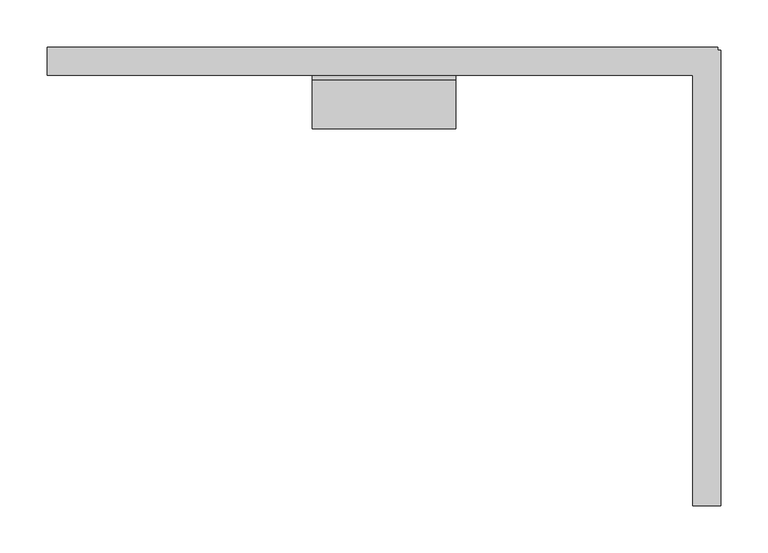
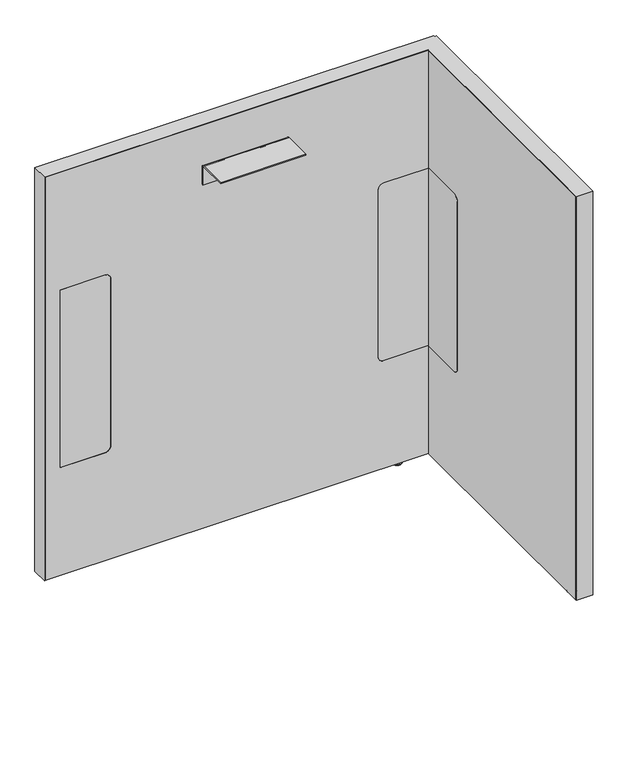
"""IFC4 building model written with IfcOpenShell, lengths in millimetres: furniture geometry, Steelcase - Answer Solution - Boundary Screen - L Return - Single Sided : 30H x 27W."""

from ifc_helpers import new_model, si_unit, point, frame, frame_2d, origin, place, context, project, spatial, polyline, circle_curve, ellipse_curve, trimmed, segment, composite_curve, outline, extrude, faceted_brep, source, transform, mapped, element, save
from ifc_brep_helpers import plane_surface, cylinder_surface, revolved_surface, advanced_brep


def furniture_b5be8e6a(model_context):
    return source(origin(), model_context, "Body", "SolidModel", [
        extrude(outline(composite_curve([segment(polyline([(-109.3501471, 549.6162029), (-29.0550397, 549.6162029), (-29.0550397, 213.7762137), (-109.3501471, 213.7762137)]), True, "CONTINUOUS"), segment(trimmed(circle_curve(frame_2d((-109.3501471, 223.9362137)), 10.16), [point((-109.3501471, 213.7762137))], [point((-119.5101471, 223.9362137))], False, "CARTESIAN"), True, "CONTINUOUS"), segment(polyline([(-119.5101471, 223.9362137), (-119.5101471, 539.4562029)]), True, "CONTINUOUS"), segment(trimmed(circle_curve(frame_2d((-109.3501471, 539.4562029)), 10.16), [point((-119.5101471, 539.4562029))], [point((-109.3501471, 549.6162029))], False, "CARTESIAN"), True, "CONTINUOUS")], self_intersect=False)), frame((915.6191891, 0.0, 0.0), z_axis=(1.0, 0.0, 0.0), x_axis=(0.0, 1.0, 0.0)), (0.0, 0.0, 1.0), 0.6401544),
        advanced_brep(
        [(930.4672074, -448.0136072, 0.0), (937.4216144, -448.0136072, 0.0), (923.5128003, -448.0136072, 0.0), (938.8762685, -448.0136072, 1.2700001), (922.0581463, -448.0136072, 1.2700001), (938.8762685, -448.0136072, 2.9673238), (922.0581463, -448.0136072, 2.9673238), (939.8427877, -448.0136072, 2.9673238), (921.091627, -448.0136072, 2.9673238), (939.8427877, -448.0136072, 9.9059849), (921.091627, -448.0136072, 9.9059849), (930.4672074, -448.0136072, 9.9059849)],
        [
            (0, 1),
            (1, 2, circle_curve(frame((930.4672074, -448.0136072, 0.0), z_axis=(0.0, 0.0, -1.0), x_axis=(1.0, 0.0, 0.0)), 6.9544071)),
            (2, 0),
            (2, 1, circle_curve(frame((930.4672074, -448.0136072, 0.0), z_axis=(0.0, 0.0, -1.0), x_axis=(1.0, 0.0, 0.0)), 6.9544071)),
            (1, 3, circle_curve(frame((937.5945484, -448.0136072, 1.2700001), z_axis=(0.0, -1.0, 0.0), x_axis=(0.0, 0.0, 1.0)), 1.2817201)),
            (3, 4, circle_curve(frame((930.4672074, -448.0136072, 1.2700001), z_axis=(0.0, 0.0, -1.0), x_axis=(1.0, 0.0, 0.0)), 8.4090611)),
            (4, 2, circle_curve(frame((923.3398663, -448.0136072, 1.2700001), z_axis=(0.0, -1.0, 0.0), x_axis=(0.0, 0.0, 1.0)), 1.2817201)),
            (4, 3, circle_curve(frame((930.4672074, -448.0136072, 1.2700001), z_axis=(0.0, 0.0, -1.0), x_axis=(1.0, 0.0, 0.0)), 8.4090611)),
            (3, 5),
            (5, 6, circle_curve(frame((930.4672074, -448.0136072, 2.9673238), z_axis=(0.0, 0.0, -1.0), x_axis=(1.0, 0.0, 0.0)), 8.4090611)),
            (6, 4),
            (6, 5, circle_curve(frame((930.4672074, -448.0136072, 2.9673238), z_axis=(0.0, 0.0, -1.0), x_axis=(1.0, 0.0, 0.0)), 8.4090611)),
            (5, 7),
            (7, 8, circle_curve(frame((930.4672074, -448.0136072, 2.9673238), z_axis=(0.0, 0.0, -1.0), x_axis=(1.0, 0.0, 0.0)), 9.3755804)),
            (8, 6),
            (8, 7, circle_curve(frame((930.4672074, -448.0136072, 2.9673238), z_axis=(0.0, 0.0, -1.0), x_axis=(1.0, 0.0, 0.0)), 9.3755804)),
            (7, 9),
            (9, 10, circle_curve(frame((930.4672074, -448.0136072, 9.9059849), z_axis=(0.0, 0.0, -1.0), x_axis=(1.0, 0.0, 0.0)), 9.3755804)),
            (10, 8),
            (10, 9, circle_curve(frame((930.4672074, -448.0136072, 9.9059849), z_axis=(0.0, 0.0, -1.0), x_axis=(1.0, 0.0, 0.0)), 9.3755804)),
            (9, 11),
            (11, 10),
        ],
        [
            plane_surface(frame((930.4672074, -448.0136072, 0.0), z_axis=(0.0, 0.0, -1.0), x_axis=(1.0, 0.0, 0.0))),
            revolved_surface(trimmed(ellipse_curve(frame((937.5945484, -448.0136072, 1.2700001), z_axis=(0.0, 1.0, 0.0), x_axis=(0.0, 0.0, 1.0)), 1.2817201, 1.2817201), [point((938.8762685, -448.0136072, 1.2700001))], [point((937.4216144, -448.0136072, 0.0))], True, "CARTESIAN"), (930.4672074, -448.0136072, 9.9059849), (0.0, 0.0, -1.0)),
            cylinder_surface(frame((930.4672074, -448.0136072, 9.9059849), z_axis=(0.0, 0.0, -1.0), x_axis=(1.0, 0.0, 0.0)), 8.4090611),
            plane_surface(frame((930.4672074, -448.0136072, 2.9673238), z_axis=(0.0, 0.0, -1.0), x_axis=(1.0, 0.0, 0.0))),
            cylinder_surface(frame((930.4672074, -448.0136072, 9.9059849), z_axis=(0.0, 0.0, -1.0), x_axis=(1.0, 0.0, 0.0)), 9.3755804),
            plane_surface(frame((930.4672074, -448.0136072, 9.9059849), z_axis=(0.0, 0.0, 1.0), x_axis=(1.0, 0.0, 0.0))),
        ],
        [
            (0, [[1, 2, 3]]),
            (0, [[-3, 4, -1]]),
            (1, [[-2, 5, 6, 7]]),
            (1, [[-4, -7, 8, -5]]),
            (2, [[-6, 9, 10, 11]]),
            (2, [[-8, -11, 12, -9]]),
            (3, [[-10, 13, 14, 15]]),
            (3, [[-12, -15, 16, -13]]),
            (4, [[-14, 17, 18, 19]]),
            (4, [[-16, -19, 20, -17]]),
            (5, [[-18, 21, 22]]),
            (5, [[-20, -22, -21]]),
        ],
    ),
        faceted_brep([(942.0531179, 0.0, 772.922), (942.0531179, 0.0, 9.9059849), (941.0621491, 0.0, 9.9059849), (941.0621491, 0.0, 771.942118), (230.8097779, 0.0, 771.942118), (230.8097779, 0.0, 9.9059849), (229.8191891, 0.0, 9.9059849), (229.8191891, 0.0, 772.922), (229.8191891, -29.6898332, 772.922), (229.8191891, -29.6898332, 9.9059849), (230.8097779, -29.6898332, 9.9059849), (230.8097779, -29.6898332, 771.942118), (915.6191891, -29.6898332, 771.942118), (915.6191891, -29.6898332, 772.922), (941.0621491, -29.6898332, 771.942118), (941.0621491, -29.6898332, 9.9059849), (942.0531179, -29.6898332, 9.9059849), (942.0531179, -29.6898332, 771.942118), (942.0531179, -3.2625916, 772.922), (942.0531179, -3.2625916, 9.9059849), (942.0531179, -4.252647, 9.9059849), (942.0531179, -4.252647, 771.942118), (945.3152256, -3.2625916, 9.9059849), (945.3152256, -4.252647, 9.9059849), (941.0621491, -4.252647, 9.9059849), (915.6191891, -4.252647, 9.9059849), (915.6191891, -3.2625916, 9.9059849), (941.0621491, -3.2625916, 9.9059849), (915.6191891, -486.8898332, 772.922), (945.3152256, -486.8898332, 772.922), (945.3152256, -3.2625916, 772.922), (941.0621491, -3.2625916, 771.942118), (941.0621491, -4.252647, 771.942118), (915.6191891, -3.2625916, 771.942118), (915.6191891, -4.252647, 771.942118), (945.3152256, -4.252647, 771.942118), (945.3152256, -485.899196, 771.942118), (915.6191891, -485.899196, 771.942118), (915.6191891, -485.899196, 9.9059849), (915.6191891, -486.8898332, 9.9059849), (945.3152256, -486.8898332, 9.9059849), (945.3152256, -485.899196, 9.9059849)], [[[0, 1, 2, 3, 4, 5, 6, 7]], [[8, 9, 10, 11, 12, 13]], [[14, 15, 16, 17]], [[1, 0, 18, 19]], [[17, 16, 20, 21]], [[2, 1, 19, 22, 23, 20, 16, 15, 24, 25, 26, 27]], [[7, 6, 9, 8]], [[0, 7, 8, 13, 28, 29, 30, 18]], [[3, 2, 27, 31]], [[15, 14, 32, 24]], [[4, 3, 31, 33, 34, 32, 14, 17, 21, 35, 36, 37, 12, 11]], [[5, 4, 11, 10]], [[6, 5, 10, 9]], [[26, 25, 34, 33]], [[37, 38, 39, 28, 13, 12]], [[29, 40, 41, 36, 35, 23, 22, 30]], [[27, 26, 33, 31]], [[30, 22, 19, 18]], [[34, 25, 24, 32]], [[23, 35, 21, 20]], [[38, 37, 36, 41]], [[39, 38, 41, 40]], [[28, 39, 40, 29]]]),
        extrude(outline(composite_curve([segment(polyline([(-86.8398151, 696.4680019), (-86.8398151, 698.5), (-34.9450855, 698.5)]), True, "CONTINUOUS"), segment(trimmed(circle_curve(frame_2d((-34.9450855, 693.2447477)), 5.2552523), [point((-34.9450855, 698.5))], [point((-29.6898332, 693.2447477))], False, "CARTESIAN"), True, "CONTINUOUS"), segment(polyline([(-29.6898332, 693.2447477), (-29.6898332, 660.4), (-31.7218162, 660.4), (-31.7218162, 693.0058743)]), True, "CONTINUOUS"), segment(trimmed(circle_curve(frame_2d((-35.1839438, 693.0058743)), 3.4621276), [point((-31.7218162, 693.0058743))], [point((-35.1839438, 696.4680019))], True, "CARTESIAN"), True, "CONTINUOUS"), segment(polyline([(-35.1839438, 696.4680019), (-86.8398151, 696.4680019)]), True, "CONTINUOUS")], self_intersect=False)), frame((511.3685899, 0.0, 0.0), z_axis=(1.0, 0.0, 0.0), x_axis=(0.0, 1.0, 0.0)), (0.0, 0.0, 1.0), 152.4000969),
        advanced_brep(
        [(868.1246853, -23.7588726, 9.9059849), (868.1246853, -5.9309607, 9.9059849), (868.1246853, -14.8449166, 9.9059849), (868.1246853, -23.7588726, 2.9673238), (868.1246853, -5.9309607, 2.9673238), (868.1246853, -22.7915354, 2.9673238), (868.1246853, -6.8982978, 2.9673238), (868.1246853, -22.7915354, 1.6569081), (868.1246853, -6.8982978, 1.6569081), (868.1246853, -21.1346274, 0.0), (868.1246853, -8.5552059, 0.0), (868.1246853, -14.8449166, 0.0)],
        [
            (0, 1, circle_curve(frame((868.1246853, -14.8449166, 9.9059849), z_axis=(0.0, 0.0, 1.0), x_axis=(0.0, 1.0, 0.0)), 8.913956)),
            (1, 2),
            (2, 0),
            (1, 0, circle_curve(frame((868.1246853, -14.8449166, 9.9059849), z_axis=(0.0, 0.0, 1.0), x_axis=(0.0, 1.0, 0.0)), 8.913956)),
            (3, 4, circle_curve(frame((868.1246853, -14.8449166, 2.9673238), z_axis=(0.0, 0.0, 1.0), x_axis=(0.0, 1.0, 0.0)), 8.913956)),
            (4, 1),
            (0, 3),
            (4, 3, circle_curve(frame((868.1246853, -14.8449166, 2.9673238), z_axis=(0.0, 0.0, 1.0), x_axis=(0.0, 1.0, 0.0)), 8.913956)),
            (5, 6, circle_curve(frame((868.1246853, -14.8449166, 2.9673238), z_axis=(0.0, 0.0, 1.0), x_axis=(0.0, 1.0, 0.0)), 7.9466188)),
            (6, 4),
            (3, 5),
            (6, 5, circle_curve(frame((868.1246853, -14.8449166, 2.9673238), z_axis=(0.0, 0.0, 1.0), x_axis=(0.0, 1.0, 0.0)), 7.9466188)),
            (7, 8, circle_curve(frame((868.1246853, -14.8449166, 1.6569081), z_axis=(0.0, 0.0, 1.0), x_axis=(0.0, 1.0, 0.0)), 7.9466188)),
            (8, 6),
            (5, 7),
            (8, 7, circle_curve(frame((868.1246853, -14.8449166, 1.6569081), z_axis=(0.0, 0.0, 1.0), x_axis=(0.0, 1.0, 0.0)), 7.9466188)),
            (9, 10, circle_curve(frame((868.1246853, -14.8449166, 0.0), z_axis=(0.0, 0.0, 1.0), x_axis=(0.0, 1.0, 0.0)), 6.2897107)),
            (10, 8, circle_curve(frame((868.1246853, -8.5552059, 1.6569081), z_axis=(1.0, 0.0, 0.0), x_axis=(0.0, 1.0, 0.0)), 1.6569081)),
            (7, 9, circle_curve(frame((868.1246853, -21.1346274, 1.6569081), z_axis=(1.0, 0.0, 0.0), x_axis=(0.0, -1.0, 0.0)), 1.6569081)),
            (10, 9, circle_curve(frame((868.1246853, -14.8449166, 0.0), z_axis=(0.0, 0.0, 1.0), x_axis=(0.0, 1.0, 0.0)), 6.2897107)),
            (11, 10),
            (9, 11),
        ],
        [
            plane_surface(frame((868.1246853, -14.8449166, 9.9059849), z_axis=(0.0, 0.0, 1.0), x_axis=(0.0, 1.0, 0.0))),
            cylinder_surface(frame((868.1246853, -14.8449166, 9.9059849), z_axis=(0.0, 0.0, -1.0), x_axis=(0.0, 1.0, 0.0)), 8.913956),
            plane_surface(frame((868.1246853, -14.8449166, 2.9673238), z_axis=(0.0, 0.0, -1.0), x_axis=(0.0, 1.0, 0.0))),
            cylinder_surface(frame((868.1246853, -14.8449166, 9.9059849), z_axis=(0.0, 0.0, -1.0), x_axis=(0.0, 1.0, 0.0)), 7.9466188),
            revolved_surface(trimmed(ellipse_curve(frame((868.1246853, -8.5552059, 1.6569081), z_axis=(-1.0, 0.0, 0.0), x_axis=(0.0, 1.0, 0.0)), 1.6569081, 1.6569081), [point((868.1246853, -6.8982978, 1.6569081))], [point((868.1246853, -8.5552059, 0.0))], True, "CARTESIAN"), (868.1246853, -14.8449166, 9.9059849), (0.0, 0.0, -1.0)),
            plane_surface(frame((868.1246853, -14.8449166, 0.0), z_axis=(0.0, 0.0, -1.0), x_axis=(0.0, 1.0, 0.0))),
        ],
        [
            (0, [[1, 2, 3]]),
            (0, [[4, -3, -2]]),
            (1, [[5, 6, -1, 7]]),
            (1, [[8, -7, -4, -6]]),
            (2, [[9, 10, -5, 11]]),
            (2, [[12, -11, -8, -10]]),
            (3, [[13, 14, -9, 15]]),
            (3, [[16, -15, -12, -14]]),
            (4, [[17, 18, -13, 19]]),
            (4, [[20, -19, -16, -18]]),
            (5, [[21, -17, 22]]),
            (5, [[-22, -20, -21]]),
        ],
    ),
        advanced_brep(
        [(230.8097779, 0.0, 771.942118), (941.0621491, 0.0, 771.942118), (941.0621491, 0.0, 9.9059849), (230.8097779, 0.0, 9.9059849), (347.9483813, -29.0550397, 539.4562029), (337.7883813, -29.0550397, 549.6162029), (258.1344836, -29.0550397, 549.6162029), (258.1344836, -29.0550397, 213.7762137), (337.7883813, -29.0550397, 213.7762137), (347.9483813, -29.0550397, 223.9362137), (916.2593435, -29.0550397, 213.7762137), (916.2593435, -29.0550397, 549.6162029), (835.7109268, -29.0550397, 549.6162029), (825.5509268, -29.0550397, 539.4562029), (825.5509268, -29.0550397, 223.9362137), (835.7109268, -29.0550397, 213.7762137), (230.8097779, -29.6898332, 771.942118), (230.8097779, -29.6898332, 9.9059849), (915.6191891, -29.6898332, 9.9059849), (915.6191891, -29.6898332, 213.7762137), (835.7109268, -29.6898332, 213.7762137), (825.5509268, -29.6898332, 223.9362137), (825.5509268, -29.6898332, 539.4562029), (835.7109268, -29.6898332, 549.6162029), (915.6191891, -29.6898332, 549.6162029), (915.6191891, -29.6898332, 771.942118), (337.7883813, -29.6898332, 549.6162029), (347.9483813, -29.6898332, 539.4562029), (347.9483813, -29.6898332, 223.9362137), (337.7883813, -29.6898332, 213.7762137), (258.1344836, -29.6898332, 213.7762137), (258.1344836, -29.6898332, 549.6162029), (941.0621491, -4.252647, 9.9059849), (945.3152256, -4.252647, 9.9059849), (945.3152256, -485.899196, 9.9059849), (915.6191891, -485.899196, 9.9059849), (941.0621491, -4.252647, 771.942118), (915.6191891, -485.899196, 771.942118), (945.3152256, -485.899196, 771.942118), (945.3152256, -4.252647, 771.942118), (916.2593435, -109.3501471, 549.6162029), (915.6191891, -109.3501471, 549.6162029), (916.2593435, -109.3501471, 213.7762137), (916.2593435, -119.5101471, 223.9362137), (916.2593435, -119.5101471, 539.4562029), (915.6191891, -109.3501471, 213.7762137), (915.6191891, -119.5101471, 539.4562029), (915.6191891, -119.5101471, 223.9362137)],
        [
            (0, 1),
            (1, 2),
            (2, 3),
            (3, 0),
            (4, 5, circle_curve(frame((337.7883813, -29.0550397, 539.4562029), z_axis=(0.0, -1.0, 0.0), x_axis=(0.0, 0.0, 1.0)), 10.16)),
            (5, 6),
            (6, 7),
            (7, 8),
            (8, 9, circle_curve(frame((337.7883813, -29.0550397, 223.9362137), z_axis=(0.0, -1.0, 0.0), x_axis=(0.0, 0.0, 1.0)), 10.16)),
            (9, 4),
            (10, 11),
            (11, 12),
            (12, 13, circle_curve(frame((835.7109268, -29.0550397, 539.4562029), z_axis=(0.0, -1.0, 0.0), x_axis=(0.0, 0.0, 1.0)), 10.16)),
            (13, 14),
            (14, 15, circle_curve(frame((835.7109268, -29.0550397, 223.9362137), z_axis=(0.0, -1.0, 0.0), x_axis=(0.0, 0.0, 1.0)), 10.16)),
            (15, 10),
            (16, 17),
            (17, 18),
            (18, 19),
            (19, 20),
            (20, 21, circle_curve(frame((835.7109268, -29.6898332, 223.9362137), z_axis=(0.0, 1.0, 0.0), x_axis=(0.0, 0.0, 1.0)), 10.16)),
            (21, 22),
            (22, 23, circle_curve(frame((835.7109268, -29.6898332, 539.4562029), z_axis=(0.0, 1.0, 0.0), x_axis=(0.0, 0.0, 1.0)), 10.16)),
            (23, 24),
            (24, 25),
            (25, 16),
            (26, 27, circle_curve(frame((337.7883813, -29.6898332, 539.4562029), z_axis=(0.0, 1.0, 0.0), x_axis=(0.0, 0.0, 1.0)), 10.16)),
            (27, 28),
            (28, 29, circle_curve(frame((337.7883813, -29.6898332, 223.9362137), z_axis=(0.0, 1.0, 0.0), x_axis=(0.0, 0.0, 1.0)), 10.16)),
            (29, 30),
            (30, 31),
            (31, 26),
            (16, 0),
            (3, 17),
            (2, 32),
            (32, 33),
            (33, 34),
            (34, 35),
            (35, 18),
            (1, 36),
            (36, 32),
            (25, 37),
            (37, 38),
            (38, 39),
            (39, 36),
            (26, 5),
            (4, 27),
            (9, 28),
            (8, 29),
            (7, 30),
            (6, 31),
            (11, 40),
            (40, 41),
            (41, 24),
            (23, 12),
            (42, 43, circle_curve(frame((916.2593435, -109.3501471, 223.9362137), z_axis=(-1.0, 0.0, 0.0), x_axis=(0.0, 1.0, 0.0)), 10.16)),
            (43, 44),
            (44, 40, circle_curve(frame((916.2593435, -109.3501471, 539.4562029), z_axis=(-1.0, 0.0, 0.0), x_axis=(0.0, 1.0, 0.0)), 10.16)),
            (10, 42),
            (15, 20),
            (19, 45),
            (45, 42),
            (14, 21),
            (13, 22),
            (35, 37),
            (41, 46, circle_curve(frame((915.6191891, -109.3501471, 539.4562029), z_axis=(1.0, 0.0, 0.0), x_axis=(0.0, 1.0, 0.0)), 10.16)),
            (46, 47),
            (47, 45, circle_curve(frame((915.6191891, -109.3501471, 223.9362137), z_axis=(1.0, 0.0, 0.0), x_axis=(0.0, 1.0, 0.0)), 10.16)),
            (38, 34),
            (33, 39),
            (44, 46),
            (43, 47),
        ],
        [
            plane_surface(frame((347.9483813, 0.0, 549.6162029), z_axis=(0.0, 1.0, 0.0), x_axis=(0.0, 0.0, -1.0))),
            plane_surface(frame((347.9483813, -29.0550397, 549.6162029), z_axis=(0.0, -1.0, 0.0), x_axis=(0.0, 0.0, 1.0))),
            plane_surface(frame((941.0621491, -29.6898332, 771.942118), z_axis=(0.0, -1.0, 0.0), x_axis=(-1.0, 0.0, 0.0))),
            plane_surface(frame((230.8097779, 0.0, 9.9059849), z_axis=(-1.0, 0.0, 0.0), x_axis=(0.0, -1.0, 0.0))),
            plane_surface(frame((941.0621491, 0.0, 9.9059849), z_axis=(0.0, 0.0, -1.0), x_axis=(0.0, -1.0, 0.0))),
            plane_surface(frame((941.0621491, 0.0, 771.942118), z_axis=(1.0, 0.0, 0.0), x_axis=(0.0, -1.0, 0.0))),
            plane_surface(frame((230.8097779, 0.0, 771.942118), z_axis=(0.0, 0.0, 1.0), x_axis=(0.0, -1.0, 0.0))),
            revolved_surface(polyline([(337.7883813, -29.6898332, 549.6162029), (337.7883813, -29.0550397, 549.6162029)]), (337.7883813, -29.6898332, 539.4562029), (0.0, -1.0, 0.0)),
            plane_surface(frame((347.9483813, 0.0, 223.9362137), z_axis=(-1.0, 0.0, 0.0), x_axis=(0.0, -1.0, 0.0))),
            revolved_surface(polyline([(337.7883813, -29.6898332, 234.0962137), (337.7883813, -29.0550397, 234.0962137)]), (337.7883813, -29.6898332, 223.9362137), (0.0, -1.0, 0.0)),
            plane_surface(frame((258.1344836, 0.0, 213.7762137), z_axis=(0.0, 0.0, 1.0), x_axis=(0.0, -1.0, 0.0))),
            plane_surface(frame((258.1344836, 0.0, 549.6162029), z_axis=(1.0, 0.0, 0.0), x_axis=(0.0, -1.0, 0.0))),
            plane_surface(frame((337.7883813, 0.0, 549.6162029), z_axis=(0.0, 0.0, -1.0), x_axis=(0.0, -1.0, 0.0))),
            plane_surface(frame((916.2593435, 0.0, 549.6162029), z_axis=(0.0, 0.0, -1.0), x_axis=(0.0, -1.0, 0.0))),
            plane_surface(frame((916.2593435, 0.0, 213.7762137), z_axis=(-1.0, 0.0, 0.0), x_axis=(0.0, -1.0, 0.0))),
            plane_surface(frame((835.7109268, 0.0, 213.7762137), z_axis=(0.0, 0.0, 1.0), x_axis=(0.0, -1.0, 0.0))),
            revolved_surface(polyline([(835.7109268, -29.6898332, 234.0962137), (835.7109268, -29.0550397, 234.0962137)]), (835.7109268, -29.6898332, 223.9362137), (0.0, -1.0, 0.0)),
            plane_surface(frame((825.5509268, 0.0, 539.4562029), z_axis=(1.0, 0.0, 0.0), x_axis=(0.0, -1.0, 0.0))),
            revolved_surface(polyline([(835.7109268, -29.6898332, 549.6162029), (835.7109268, -29.0550397, 549.6162029)]), (835.7109268, -29.6898332, 539.4562029), (0.0, -1.0, 0.0)),
            plane_surface(frame((915.6191891, -485.899196, 771.942118), z_axis=(-1.0, 0.0, 0.0), x_axis=(0.0, 0.0, 1.0))),
            plane_surface(frame((945.3152256, -485.899196, 771.942118), z_axis=(1.0, 0.0, 0.0), x_axis=(0.0, 0.0, -1.0))),
            plane_surface(frame((945.3152256, -4.252647, 9.9059849), z_axis=(0.0, 1.0, 0.0), x_axis=(-1.0, 0.0, 0.0))),
            plane_surface(frame((945.3152256, -485.899196, 771.942118), z_axis=(0.0, -1.0, 0.0), x_axis=(-1.0, 0.0, 0.0))),
            revolved_surface(polyline([(915.6191891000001, -99.1901471, 539.4562029), (916.2593435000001, -99.1901471, 539.4562029)]), (-340.6902705, -109.3501471, 539.4562029), (-1.0, 0.0, 0.0)),
            plane_surface(frame((945.3152256, -119.5101471, 223.9362137), z_axis=(0.0, 1.0, 0.0), x_axis=(-1.0, 0.0, 0.0))),
            revolved_surface(polyline([(915.6191891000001, -99.1901471, 223.9362137), (916.2593435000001, -99.1901471, 223.9362137)]), (-340.6902705, -109.3501471, 223.9362137), (-1.0, 0.0, 0.0)),
        ],
        [
            (0, [[1, 2, 3, 4]]),
            (1, [[5, 6, 7, 8, 9, 10]]),
            (1, [[11, 12, 13, 14, 15, 16]]),
            (2, [[17, 18, 19, 20, 21, 22, 23, 24, 25, 26], [27, 28, 29, 30, 31, 32]]),
            (3, [[-17, 33, -4, 34]]),
            (4, [[-3, 35, 36, 37, 38, 39, -18, -34]]),
            (5, [[-2, 40, 41, -35]]),
            (6, [[-1, -33, -26, 42, 43, 44, 45, -40]]),
            (7, [[-27, 46, -5, 47]]),
            (8, [[-28, -47, -10, 48]]),
            (9, [[-29, -48, -9, 49]]),
            (10, [[-30, -49, -8, 50]]),
            (11, [[-31, -50, -7, 51]]),
            (12, [[-32, -51, -6, -46]]),
            (13, [[52, 53, 54, -24, 55, -12]]),
            (14, [[56, 57, 58, -52, -11, 59]]),
            (15, [[-59, -16, 60, -20, 61, 62]]),
            (16, [[-21, -60, -15, 63]]),
            (17, [[-22, -63, -14, 64]]),
            (18, [[-23, -64, -13, -55]]),
            (19, [[65, -42, -25, -54, 66, 67, 68, -61, -19, -39]]),
            (20, [[69, -37, 70, -44]]),
            (21, [[-70, -36, -41, -45]]),
            (22, [[-65, -38, -69, -43]]),
            (23, [[-66, -53, -58, 71]]),
            (24, [[-67, -71, -57, 72]]),
            (25, [[-68, -72, -56, -62]]),
        ],
    ),
        extrude(outline(composite_curve([segment(polyline([(549.6162029, 337.7883813), (549.6162029, 258.1344836), (213.7762137, 258.1344836), (213.7762137, 337.7883813)]), True, "CONTINUOUS"), segment(trimmed(circle_curve(frame_2d((223.9362137, 337.7883813)), 10.16), [point((213.7762137, 337.7883813))], [point((223.9362137, 347.9483813))], False, "CARTESIAN"), True, "CONTINUOUS"), segment(polyline([(223.9362137, 347.9483813), (539.4562029, 347.9483813)]), True, "CONTINUOUS"), segment(trimmed(circle_curve(frame_2d((539.4562029, 337.7883813)), 10.16), [point((539.4562029, 347.9483813))], [point((549.6162029, 337.7883813))], False, "CARTESIAN"), True, "CONTINUOUS")], self_intersect=False)), frame((0.0, -29.6898332, 0.0), z_axis=(0.0, 1.0, 0.0), x_axis=(0.0, 0.0, 1.0)), (0.0, 0.0, 1.0), 0.6347935),
        extrude(outline(composite_curve([segment(trimmed(circle_curve(frame_2d((539.4562029, 835.7109268)), 10.16), [point((549.6162029, 835.7109268))], [point((539.4562029, 825.5509268))], False, "CARTESIAN"), True, "CONTINUOUS"), segment(polyline([(539.4562029, 825.5509268), (223.9362137, 825.5509268)]), True, "CONTINUOUS"), segment(trimmed(circle_curve(frame_2d((223.9362137, 835.7109268)), 10.16), [point((223.9362137, 825.5509268))], [point((213.7762137, 835.7109268))], False, "CARTESIAN"), True, "CONTINUOUS"), segment(polyline([(213.7762137, 835.7109268), (213.7762137, 915.6191891), (549.6162029, 915.6191891), (549.6162029, 835.7109268)]), True, "CONTINUOUS")], self_intersect=False)), frame((0.0, -29.6898332, 0.0), z_axis=(0.0, 1.0, 0.0), x_axis=(0.0, 0.0, 1.0)), (0.0, 0.0, 1.0), 0.6347935),
    ])


if __name__ == "__main__":
    model = new_model("IFC4")
    model_context = context("Model", 3, world=origin())
    ifc_project = project(units=[si_unit("LENGTHUNIT", "METRE", prefix="MILLI")], contexts=[model_context])
    site = spatial("IfcSite", under=ifc_project)
    building = spatial("IfcBuilding", under=site)
    placement = place(None, origin())
    furniture_shape = furniture_b5be8e6a(model_context)
    element("IfcFurniture", 1, ObjectType="Steelcase - Answer Solution - Boundary Screen - L Return - Single Sided : 30H x 27W", at=placement, inside=building, context=model_context, shape_type="MappedRepresentation", body=[
        mapped(furniture_shape, transform((0.0, 0.0, 0.0), x_axis=(1.0, 0.0, 0.0), y_axis=(0.0, 1.0, 0.0), z_axis=(0.0, 0.0, 1.0))),
    ])
    save(model, "model.ifc")
